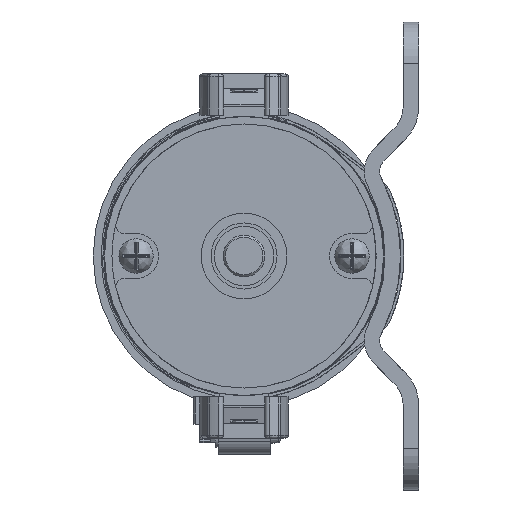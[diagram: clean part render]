
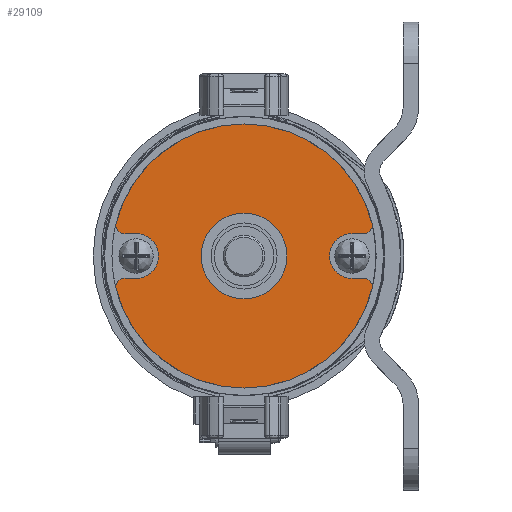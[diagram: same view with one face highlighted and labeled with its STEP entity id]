
A CAD part, left-side view. The second image highlights one B-rep face of the part: STEP entity #29109.
In plain terms, the highlighted planar face has unit normal (-1, 0, 0) as drawn and (0, 0, 1) by its records, which use the part's own axes.
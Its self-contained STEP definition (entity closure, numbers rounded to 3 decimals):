
#433 = DIRECTION ( 'NONE',  ( 0., 0., 1. ) ) ;
#480 = CARTESIAN_POINT ( 'NONE',  ( -24.611, 6.282, 12.814 ) ) ;
#799 = CARTESIAN_POINT ( 'NONE',  ( 20.765, 0., 12.814 ) ) ;
#852 = DIRECTION ( 'NONE',  ( 0., 0., 1. ) ) ;
#1615 = EDGE_CURVE ( 'NONE', #13184, #38885, #9572, .T. ) ;
#1623 = DIRECTION ( 'NONE',  ( 1., 0., 0. ) ) ;
#2673 = EDGE_CURVE ( 'NONE', #15764, #44423, #12496, .T. ) ;
#4220 = VECTOR ( 'NONE', #38461, 1000. ) ;
#4870 = DIRECTION ( 'NONE',  ( 1., 0., 0. ) ) ;
#5326 = EDGE_CURVE ( 'NONE', #14228, #15764, #23296, .T. ) ;
#5963 = CARTESIAN_POINT ( 'NONE',  ( -23.085, -4.318, 12.814 ) ) ;
#6597 = ORIENTED_EDGE ( 'NONE', *, *, #43577, .T. ) ;
#6633 = CARTESIAN_POINT ( 'NONE',  ( -23.085, 5.893, 12.814 ) ) ;
#6907 = EDGE_CURVE ( 'NONE', #33360, #14228, #42465, .T. ) ;
#7082 = ORIENTED_EDGE ( 'NONE', *, *, #8005, .T. ) ;
#7237 = EDGE_CURVE ( 'NONE', #16577, #27796, #26245, .T. ) ;
#7363 = EDGE_LOOP ( 'NONE', ( #32080, #17772, #36586, #43934, #7082, #6597, #48826, #39699, #11936, #22112, #50418, #18135 ) ) ;
#8005 = EDGE_CURVE ( 'NONE', #31107, #20239, #10530, .T. ) ;
#8169 = CARTESIAN_POINT ( 'NONE',  ( -23.085, 4.318, 12.814 ) ) ;
#8738 = CARTESIAN_POINT ( 'NONE',  ( -20.764, -4.318, 12.814 ) ) ;
#9572 = LINE ( 'NONE', #22653, #41178 ) ;
#9745 = CARTESIAN_POINT ( 'NONE',  ( 0., 0., 12.814 ) ) ;
#10530 = CIRCLE ( 'NONE', #31181, 25.4 ) ;
#10633 = EDGE_CURVE ( 'NONE', #27796, #31107, #32530, .T. ) ;
#10680 = DIRECTION ( 'NONE',  ( 1., 0., 0. ) ) ;
#10773 = VERTEX_POINT ( 'NONE', #26089 ) ;
#11270 = DIRECTION ( 'NONE',  ( 0., 1., 0. ) ) ;
#11936 = ORIENTED_EDGE ( 'NONE', *, *, #6907, .T. ) ;
#12496 = CIRCLE ( 'NONE', #17604, 25.4 ) ;
#12583 = AXIS2_PLACEMENT_3D ( 'NONE', #45040, #21214, #49040 ) ;
#12922 = EDGE_CURVE ( 'NONE', #10773, #16577, #37079, .T. ) ;
#13184 = VERTEX_POINT ( 'NONE', #14218 ) ;
#14218 = CARTESIAN_POINT ( 'NONE',  ( 23.085, -4.318, 12.814 ) ) ;
#14228 = VERTEX_POINT ( 'NONE', #39309 ) ;
#14829 = CARTESIAN_POINT ( 'NONE',  ( -24.611, -6.282, 12.814 ) ) ;
#15764 = VERTEX_POINT ( 'NONE', #21753 ) ;
#16577 = VERTEX_POINT ( 'NONE', #8738 ) ;
#16714 = CARTESIAN_POINT ( 'NONE',  ( -20.765, 0., 12.814 ) ) ;
#17530 = EDGE_CURVE ( 'NONE', #38885, #33360, #29963, .T. ) ;
#17604 = AXIS2_PLACEMENT_3D ( 'NONE', #21692, #852, #30800 ) ;
#17772 = ORIENTED_EDGE ( 'NONE', *, *, #12922, .T. ) ;
#17836 = CIRCLE ( 'NONE', #38442, 1.575 ) ;
#18135 = ORIENTED_EDGE ( 'NONE', *, *, #23955, .T. ) ;
#18460 = CARTESIAN_POINT ( 'NONE',  ( 24.611, -6.282, 12.814 ) ) ;
#19196 = CARTESIAN_POINT ( 'NONE',  ( 24.956, -25.705, 12.814 ) ) ;
#20149 = CARTESIAN_POINT ( 'NONE',  ( 0., 0., 12.814 ) ) ;
#20239 = VERTEX_POINT ( 'NONE', #18460 ) ;
#20304 = CARTESIAN_POINT ( 'NONE',  ( -8.255, 0., 12.814 ) ) ;
#20678 = FACE_BOUND ( 'NONE', #38383, .T. ) ;
#20692 = CARTESIAN_POINT ( 'NONE',  ( 20.765, -4.318, 12.814 ) ) ;
#20718 = DIRECTION ( 'NONE',  ( 1., 0., 0. ) ) ;
#21214 = DIRECTION ( 'NONE',  ( 0., 0., 1. ) ) ;
#21692 = CARTESIAN_POINT ( 'NONE',  ( 0., 0., 12.814 ) ) ;
#21753 = CARTESIAN_POINT ( 'NONE',  ( 24.611, 6.282, 12.814 ) ) ;
#21792 = DIRECTION ( 'NONE',  ( 0., 0., 1. ) ) ;
#21828 = VERTEX_POINT ( 'NONE', #20304 ) ;
#22112 = ORIENTED_EDGE ( 'NONE', *, *, #5326, .T. ) ;
#22261 = CARTESIAN_POINT ( 'NONE',  ( 0., 4.318, 12.814 ) ) ;
#22653 = CARTESIAN_POINT ( 'NONE',  ( 0., -4.318, 12.814 ) ) ;
#22946 = DIRECTION ( 'NONE',  ( 1., 0., 0. ) ) ;
#23110 = PLANE ( 'NONE',  #40348 ) ;
#23296 = CIRCLE ( 'NONE', #44429, 1.575 ) ;
#23955 = EDGE_CURVE ( 'NONE', #44423, #30315, #49512, .T. ) ;
#24084 = DIRECTION ( 'NONE',  ( -1., 0., 0. ) ) ;
#24436 = CARTESIAN_POINT ( 'NONE',  ( 20.765, 4.318, 12.814 ) ) ;
#24477 = AXIS2_PLACEMENT_3D ( 'NONE', #20149, #47923, #24084 ) ;
#25051 = CIRCLE ( 'NONE', #24477, 8.255 ) ;
#25697 = AXIS2_PLACEMENT_3D ( 'NONE', #799, #28835, #4870 ) ;
#26089 = CARTESIAN_POINT ( 'NONE',  ( -20.764, 4.318, 12.814 ) ) ;
#26245 = LINE ( 'NONE', #44847, #35608 ) ;
#26704 = DIRECTION ( 'NONE',  ( -1., 0., 0. ) ) ;
#27796 = VERTEX_POINT ( 'NONE', #5963 ) ;
#28835 = DIRECTION ( 'NONE',  ( 0., 0., -1. ) ) ;
#29109 = ADVANCED_FACE ( 'NONE', ( #20678, #51132 ), #23110, .T. ) ;
#29963 = CIRCLE ( 'NONE', #25697, 4.318 ) ;
#30315 = VERTEX_POINT ( 'NONE', #8169 ) ;
#30800 = DIRECTION ( 'NONE',  ( 1., 0., 0. ) ) ;
#31107 = VERTEX_POINT ( 'NONE', #14829 ) ;
#31181 = AXIS2_PLACEMENT_3D ( 'NONE', #9745, #49496, #51301 ) ;
#31931 = VECTOR ( 'NONE', #22946, 1000. ) ;
#32080 = ORIENTED_EDGE ( 'NONE', *, *, #41668, .T. ) ;
#32530 = CIRCLE ( 'NONE', #12583, 1.575 ) ;
#33360 = VERTEX_POINT ( 'NONE', #24436 ) ;
#34466 = AXIS2_PLACEMENT_3D ( 'NONE', #16714, #44533, #20718 ) ;
#34585 = DIRECTION ( 'NONE',  ( 0., 0., 1. ) ) ;
#34870 = LINE ( 'NONE', #38610, #4220 ) ;
#35207 = DIRECTION ( 'NONE',  ( 0., 0., 1. ) ) ;
#35608 = VECTOR ( 'NONE', #42085, 1000. ) ;
#36586 = ORIENTED_EDGE ( 'NONE', *, *, #7237, .T. ) ;
#37079 = CIRCLE ( 'NONE', #34466, 4.318 ) ;
#38383 = EDGE_LOOP ( 'NONE', ( #43791 ) ) ;
#38442 = AXIS2_PLACEMENT_3D ( 'NONE', #45634, #21792, #49626 ) ;
#38461 = DIRECTION ( 'NONE',  ( 1., 0., 0. ) ) ;
#38610 = CARTESIAN_POINT ( 'NONE',  ( 0., 4.318, 12.814 ) ) ;
#38720 = AXIS2_PLACEMENT_3D ( 'NONE', #6633, #34585, #10680 ) ;
#38885 = VERTEX_POINT ( 'NONE', #20692 ) ;
#39309 = CARTESIAN_POINT ( 'NONE',  ( 23.085, 4.318, 12.814 ) ) ;
#39699 = ORIENTED_EDGE ( 'NONE', *, *, #17530, .T. ) ;
#40348 = AXIS2_PLACEMENT_3D ( 'NONE', #19196, #35207, #11270 ) ;
#41178 = VECTOR ( 'NONE', #26704, 1000. ) ;
#41668 = EDGE_CURVE ( 'NONE', #30315, #10773, #34870, .T. ) ;
#42085 = DIRECTION ( 'NONE',  ( -1., 0., 0. ) ) ;
#42465 = LINE ( 'NONE', #22261, #31931 ) ;
#43577 = EDGE_CURVE ( 'NONE', #20239, #13184, #17836, .T. ) ;
#43791 = ORIENTED_EDGE ( 'NONE', *, *, #48438, .T. ) ;
#43934 = ORIENTED_EDGE ( 'NONE', *, *, #10633, .T. ) ;
#44423 = VERTEX_POINT ( 'NONE', #480 ) ;
#44429 = AXIS2_PLACEMENT_3D ( 'NONE', #45734, #433, #1623 ) ;
#44533 = DIRECTION ( 'NONE',  ( 0., 0., -1. ) ) ;
#44847 = CARTESIAN_POINT ( 'NONE',  ( 0., -4.318, 12.814 ) ) ;
#45040 = CARTESIAN_POINT ( 'NONE',  ( -23.085, -5.893, 12.814 ) ) ;
#45634 = CARTESIAN_POINT ( 'NONE',  ( 23.085, -5.893, 12.814 ) ) ;
#45734 = CARTESIAN_POINT ( 'NONE',  ( 23.085, 5.893, 12.814 ) ) ;
#47923 = DIRECTION ( 'NONE',  ( 0., 0., -1. ) ) ;
#48438 = EDGE_CURVE ( 'NONE', #21828, #21828, #25051, .T. ) ;
#48826 = ORIENTED_EDGE ( 'NONE', *, *, #1615, .T. ) ;
#49040 = DIRECTION ( 'NONE',  ( 1., 0., 0. ) ) ;
#49496 = DIRECTION ( 'NONE',  ( 0., 0., 1. ) ) ;
#49512 = CIRCLE ( 'NONE', #38720, 1.575 ) ;
#49626 = DIRECTION ( 'NONE',  ( 1., 0., 0. ) ) ;
#50418 = ORIENTED_EDGE ( 'NONE', *, *, #2673, .T. ) ;
#51132 = FACE_OUTER_BOUND ( 'NONE', #7363, .T. ) ;
#51301 = DIRECTION ( 'NONE',  ( 1., 0., 0. ) ) ;
